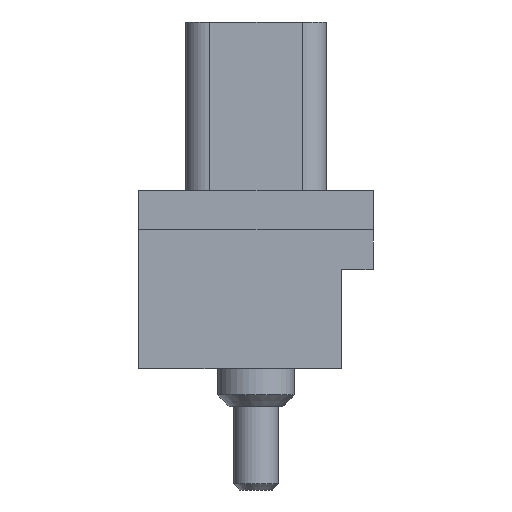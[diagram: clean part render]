
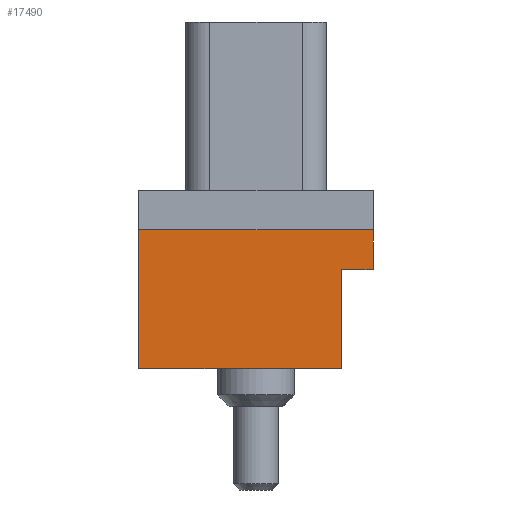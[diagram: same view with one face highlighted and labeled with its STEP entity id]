
A CAD part, left-side view. The second image highlights one B-rep face of the part: STEP entity #17490.
In plain terms, the highlighted planar face has unit normal (-1, 0, 0).
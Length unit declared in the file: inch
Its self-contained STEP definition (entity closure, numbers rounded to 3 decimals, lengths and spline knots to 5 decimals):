
#3585=FACE_OUTER_BOUND('',#4968,.T.);
#4968=EDGE_LOOP('',(#14572,#14573,#14574,#14575,#14576,#14577));
#6826=LINE('',#28248,#7816);
#6830=LINE('',#29040,#7820);
#6833=LINE('',#29046,#7823);
#6836=LINE('',#29052,#7826);
#6839=LINE('',#29058,#7829);
#6840=LINE('',#29059,#7830);
#7816=VECTOR('',#20771,0.35);
#7820=VECTOR('',#21787,0.08);
#7823=VECTOR('',#21792,0.25);
#7826=VECTOR('',#21797,0.1);
#7829=VECTOR('',#21806,0.59);
#7830=VECTOR('',#21807,0.51);
#8802=VERTEX_POINT('',#28241);
#8805=VERTEX_POINT('',#28246);
#9085=VERTEX_POINT('',#29034);
#9087=VERTEX_POINT('',#29038);
#9089=VERTEX_POINT('',#29043);
#9091=VERTEX_POINT('',#29050);
#10862=EDGE_CURVE('',#8805,#8802,#6826,.T.);
#11144=EDGE_CURVE('',#9085,#9087,#6830,.T.);
#11147=EDGE_CURVE('',#9089,#9085,#6833,.T.);
#11150=EDGE_CURVE('',#9087,#9091,#6836,.T.);
#11153=EDGE_CURVE('',#9091,#8802,#6839,.T.);
#11154=EDGE_CURVE('',#8805,#9089,#6840,.T.);
#14572=ORIENTED_EDGE('',*,*,#11144,.T.);
#14573=ORIENTED_EDGE('',*,*,#11150,.T.);
#14574=ORIENTED_EDGE('',*,*,#11153,.T.);
#14575=ORIENTED_EDGE('',*,*,#10862,.F.);
#14576=ORIENTED_EDGE('',*,*,#11154,.T.);
#14577=ORIENTED_EDGE('',*,*,#11147,.T.);
#16708=PLANE('',#18737);
#17490=ADVANCED_FACE('',(#3585),#16708,.T.);
#18737=AXIS2_PLACEMENT_3D('',#29057,#21804,#21805);
#20771=DIRECTION('',(0.,0.,1.));
#21787=DIRECTION('',(0.,-1.,0.));
#21792=DIRECTION('',(0.,0.,1.));
#21797=DIRECTION('',(0.,0.,1.));
#21804=DIRECTION('center_axis',(-1.,0.,0.));
#21805=DIRECTION('ref_axis',(0.,0.,1.));
#21806=DIRECTION('',(0.,1.,0.));
#21807=DIRECTION('',(0.,-1.,0.));
#28241=CARTESIAN_POINT('',(2.69826,6.38496,0.35));
#28246=CARTESIAN_POINT('',(2.69826,6.38496,0.));
#28248=CARTESIAN_POINT('',(2.69826,6.38496,0.));
#29034=CARTESIAN_POINT('',(2.69826,5.87496,0.25));
#29038=CARTESIAN_POINT('',(2.69826,5.79496,0.25));
#29040=CARTESIAN_POINT('',(2.69826,5.87496,0.25));
#29043=CARTESIAN_POINT('',(2.69826,5.87496,0.));
#29046=CARTESIAN_POINT('',(2.69826,5.87496,0.));
#29050=CARTESIAN_POINT('',(2.69826,5.79496,0.35));
#29052=CARTESIAN_POINT('',(2.69826,5.79496,0.25));
#29057=CARTESIAN_POINT('Origin',(2.69826,5.79496,0.));
#29058=CARTESIAN_POINT('',(2.69826,5.79496,0.35));
#29059=CARTESIAN_POINT('',(2.69826,6.38496,0.));
